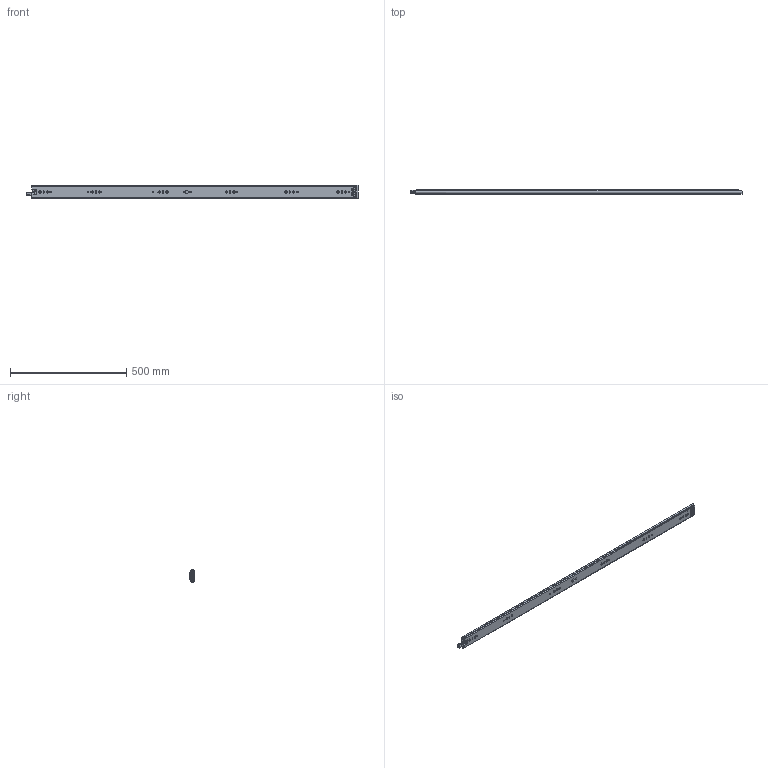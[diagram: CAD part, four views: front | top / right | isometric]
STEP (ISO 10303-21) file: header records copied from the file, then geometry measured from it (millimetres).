
FILE_DESCRIPTION((''),'2;1');
FILE_NAME('DG-57-22-56-ZUO_ASM_ASM','2023-01-05T',('jishu015'),(''),'PRO/ENGINEER BY PARAMETRIC TECHNOLOGY CORPORATION, 2010280','PRO/ENGINEER BY PARAMETRIC TECHNOLOGY CORPORATION, 2010280','');
FILE_SCHEMA(('CONFIG_CONTROL_DESIGN'));
Products named in the file (27): KP-57-01WEIKE-18_______2; 1057WEIJIAO_______1; WAIKE_____ASM_2_ASM; KP-57-01ZHONGGUI-18_______2; ZHONGGUIPEIJIAN-11_____1; ZHONGGUISUOKOU-11_____1; KP-57-01ZHONGGUI-18_______ASM_2_ASM; 1057XIAOZHUJIA_______2; 1057-5-6GANZHU_______1; 1057XIAOZHUJIA-14GE_______ASM_2_ASM; KP-57-01NEIGUI-18_______2; PJ-57-08_____1; DIAOPIAN-11_____2; 50XINSUOKOU-1_____1; MANIFOLD_SOLID_BREP_109078; MANIFOLD_SOLID_BREP_109306; TANHUANG_____1_ASM; MANIFOLD_SOLID_BREP_110517; MANIFOLD_SOLID_BREP_110958; 1053-3SBANJI122___1_ASM; JIAO11___1; KP-57-01NEIGUI-18_______ASM_2_ASM; 1053ZHUTIAO-175___________2; 53-5-6GANZHU___________1; 1053ZHUTIAO-175MM_____ASM_2_ASM; DG-57-22-56-ZUO_ASM_2_ASM; DG-57-22-56-ZUO_ASM_ASM
Assembly tree (155 placements, depth 5):
  DG-57-22-56-ZUO_ASM_ASM
    DG-57-22-56-ZUO_ASM_2_ASM
      WAIKE_____ASM_2_ASM
        KP-57-01WEIKE-18_______2
        1057WEIJIAO_______1
      KP-57-01ZHONGGUI-18_______ASM_2_ASM
        KP-57-01ZHONGGUI-18_______2
        ZHONGGUIPEIJIAN-11_____1
        ZHONGGUISUOKOU-11_____1
      1057XIAOZHUJIA-14GE_______ASM_2_ASM
        1057XIAOZHUJIA_______2
        1057-5-6GANZHU_______1  x104
      KP-57-01NEIGUI-18_______ASM_2_ASM
        KP-57-01NEIGUI-18_______2
        PJ-57-08_____1
        DIAOPIAN-11_____2
        50XINSUOKOU-1_____1
        TANHUANG_____1_ASM
          MANIFOLD_SOLID_BREP_109078
          MANIFOLD_SOLID_BREP_109306
        1053-3SBANJI122___1_ASM
          MANIFOLD_SOLID_BREP_110517
          MANIFOLD_SOLID_BREP_110958
        JIAO11___1
      1053ZHUTIAO-175MM_____ASM_2_ASM  x2
        1053ZHUTIAO-175___________2
        53-5-6GANZHU___________1
Bounding box: 1425.42 x 19.04 x 57.68 mm (x, y, z)
Volume: 619096.9 mm3; surface area: 677174.1 mm2
Topology: 173 solids, 173 shells, 3967 faces, 11881 edges, 7510 vertices
Faces by surface type: cylinder 1695, plane 1481, sphere 479, bspline 162, cone 102, torus 24, extrusion 24
Entity records: 122517 total; most frequent: CARTESIAN_POINT 30013, ORIENTED_EDGE 19668, DIRECTION 19067, EDGE_CURVE 9834, AXIS2_PLACEMENT_3D 6642, VERTEX_POINT 6412, VECTOR 5783, LINE 5759
